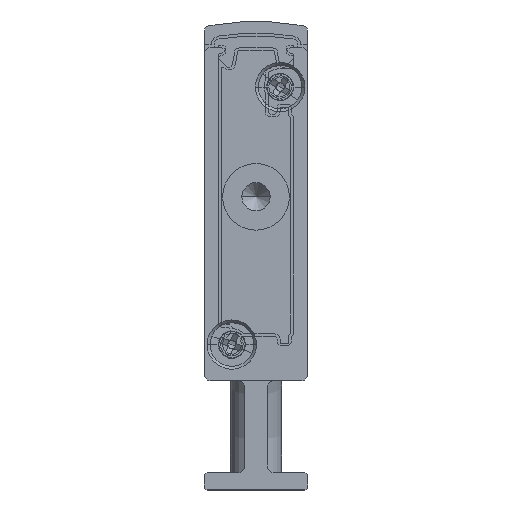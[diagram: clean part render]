
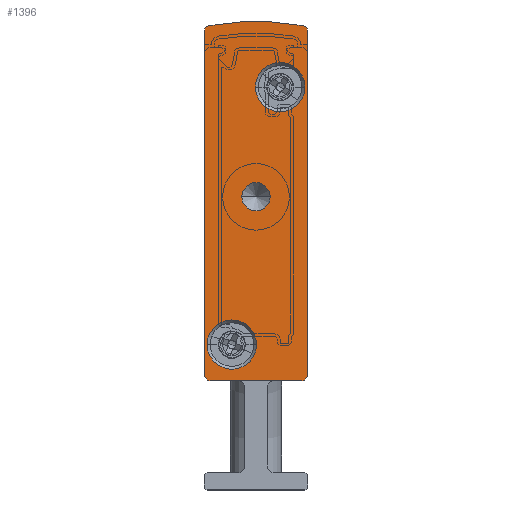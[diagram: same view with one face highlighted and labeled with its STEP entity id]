
A CAD part, front view. The second image highlights one B-rep face of the part: STEP entity #1396.
In plain terms, the highlighted planar face has unit normal (0, -1, 0).
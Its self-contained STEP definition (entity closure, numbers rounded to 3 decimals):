
#10 = AXIS2_PLACEMENT_3D ( 'NONE', #5677, #5494, #17726 ) ;
#490 = ORIENTED_EDGE ( 'NONE', *, *, #7455, .F. ) ;
#671 = VERTEX_POINT ( 'NONE', #676 ) ;
#676 = CARTESIAN_POINT ( 'NONE',  ( 8.75, -2.5, 35.05 ) ) ;
#755 = CARTESIAN_POINT ( 'NONE',  ( 4.5, -2.5, 17.092 ) ) ;
#1014 = AXIS2_PLACEMENT_3D ( 'NONE', #755, #17342, #11458 ) ;
#1019 = ORIENTED_EDGE ( 'NONE', *, *, #15814, .F. ) ;
#1182 = LINE ( 'NONE', #12134, #4486 ) ;
#1396 = ADVANCED_FACE ( 'NONE', ( #8070, #10951, #8309, #2373 ), #7086, .F. ) ;
#1519 = VERTEX_POINT ( 'NONE', #11944 ) ;
#1525 = DIRECTION ( 'NONE',  ( 0., 1., 0. ) ) ;
#1566 = CARTESIAN_POINT ( 'NONE',  ( 9., -2.5, 10. ) ) ;
#1591 = VERTEX_POINT ( 'NONE', #19479 ) ;
#1642 = DIRECTION ( 'NONE',  ( 0., -1., 0. ) ) ;
#1677 = DIRECTION ( 'NONE',  ( -1., 0., 0. ) ) ;
#1724 = AXIS2_PLACEMENT_3D ( 'NONE', #9395, #12487, #3407 ) ;
#1879 = LINE ( 'NONE', #1932, #6870 ) ;
#1932 = CARTESIAN_POINT ( 'NONE',  ( 9., -2.5, 39.902 ) ) ;
#2062 = CIRCLE ( 'NONE', #15212, 0.5 ) ;
#2064 = EDGE_CURVE ( 'NONE', #10153, #9838, #11144, .T. ) ;
#2109 = ORIENTED_EDGE ( 'NONE', *, *, #11687, .T. ) ;
#2330 = EDGE_CURVE ( 'NONE', #6908, #15617, #4674, .T. ) ;
#2362 = ORIENTED_EDGE ( 'NONE', *, *, #2733, .F. ) ;
#2373 = FACE_BOUND ( 'NONE', #14303, .T. ) ;
#2485 = CARTESIAN_POINT ( 'NONE',  ( 4.5, -2.5, 25.5 ) ) ;
#2594 = AXIS2_PLACEMENT_3D ( 'NONE', #7217, #10340, #18020 ) ;
#2733 = EDGE_CURVE ( 'NONE', #10946, #11207, #10025, .T. ) ;
#3052 = ORIENTED_EDGE ( 'NONE', *, *, #2064, .F. ) ;
#3259 = CARTESIAN_POINT ( 'NONE',  ( 8.5, -2.5, 10. ) ) ;
#3263 = CARTESIAN_POINT ( 'NONE',  ( 0., -2.5, 39.902 ) ) ;
#3309 = AXIS2_PLACEMENT_3D ( 'NONE', #2485, #5551, #11527 ) ;
#3407 = DIRECTION ( 'NONE',  ( -1., 0., 0. ) ) ;
#3705 = LINE ( 'NONE', #16080, #12048 ) ;
#3707 = CARTESIAN_POINT ( 'NONE',  ( 0.25, -2.5, 12.65 ) ) ;
#3936 = DIRECTION ( 'NONE',  ( 0., 1., 0. ) ) ;
#3970 = EDGE_CURVE ( 'NONE', #1591, #10946, #1879, .T. ) ;
#4044 = CIRCLE ( 'NONE', #8870, 2.15 ) ;
#4133 = CARTESIAN_POINT ( 'NONE',  ( 4.5, -2.5, 25.5 ) ) ;
#4177 = ORIENTED_EDGE ( 'NONE', *, *, #2330, .F. ) ;
#4357 = CARTESIAN_POINT ( 'NONE',  ( 0.5, -2.5, 10. ) ) ;
#4486 = VECTOR ( 'NONE', #15300, 1000. ) ;
#4563 = AXIS2_PLACEMENT_3D ( 'NONE', #6059, #16707, #15261 ) ;
#4674 = CIRCLE ( 'NONE', #1724, 0.5 ) ;
#5014 = VERTEX_POINT ( 'NONE', #6996 ) ;
#5246 = DIRECTION ( 'NONE',  ( -1., 0., 0. ) ) ;
#5440 = CARTESIAN_POINT ( 'NONE',  ( 0.408, -2.5, 40.393 ) ) ;
#5494 = DIRECTION ( 'NONE',  ( 0., 1., 0. ) ) ;
#5551 = DIRECTION ( 'NONE',  ( 0., 1., 0. ) ) ;
#5677 = CARTESIAN_POINT ( 'NONE',  ( 8.5, -2.5, 39.902 ) ) ;
#5771 = EDGE_CURVE ( 'NONE', #15490, #13602, #2062, .T. ) ;
#5817 = CIRCLE ( 'NONE', #10, 0.5 ) ;
#5831 = ORIENTED_EDGE ( 'NONE', *, *, #8377, .F. ) ;
#6059 = CARTESIAN_POINT ( 'NONE',  ( 2.4, -2.5, 12.65 ) ) ;
#6870 = VECTOR ( 'NONE', #8226, 1000. ) ;
#6908 = VERTEX_POINT ( 'NONE', #3263 ) ;
#6996 = CARTESIAN_POINT ( 'NONE',  ( 5.75, -2.5, 25.5 ) ) ;
#7086 = PLANE ( 'NONE',  #2594 ) ;
#7217 = CARTESIAN_POINT ( 'NONE',  ( 0.5, -2.5, 39.902 ) ) ;
#7455 = EDGE_CURVE ( 'NONE', #671, #1519, #4044, .T. ) ;
#7472 = VERTEX_POINT ( 'NONE', #11939 ) ;
#7535 = DIRECTION ( 'NONE',  ( 1., 0., 0. ) ) ;
#8025 = EDGE_LOOP ( 'NONE', ( #4177, #5831, #17909, #12215, #2362, #12602, #1019, #13871 ) ) ;
#8070 = FACE_BOUND ( 'NONE', #18493, .T. ) ;
#8226 = DIRECTION ( 'NONE',  ( 0., 0., -1. ) ) ;
#8309 = FACE_OUTER_BOUND ( 'NONE', #8025, .T. ) ;
#8377 = EDGE_CURVE ( 'NONE', #13602, #6908, #1182, .T. ) ;
#8404 = DIRECTION ( 'NONE',  ( 1., 0., 0. ) ) ;
#8580 = AXIS2_PLACEMENT_3D ( 'NONE', #8746, #14736, #17752 ) ;
#8648 = AXIS2_PLACEMENT_3D ( 'NONE', #4133, #3936, #11671 ) ;
#8746 = CARTESIAN_POINT ( 'NONE',  ( 2.4, -2.5, 12.65 ) ) ;
#8870 = AXIS2_PLACEMENT_3D ( 'NONE', #15955, #19003, #8404 ) ;
#9395 = CARTESIAN_POINT ( 'NONE',  ( 0.5, -2.5, 39.902 ) ) ;
#9730 = CARTESIAN_POINT ( 'NONE',  ( 0.5, -2.5, 9.5 ) ) ;
#9838 = VERTEX_POINT ( 'NONE', #3707 ) ;
#9898 = ORIENTED_EDGE ( 'NONE', *, *, #10966, .F. ) ;
#10025 = CIRCLE ( 'NONE', #18911, 0.5 ) ;
#10153 = VERTEX_POINT ( 'NONE', #19512 ) ;
#10340 = DIRECTION ( 'NONE',  ( 0., 1., 0. ) ) ;
#10946 = VERTEX_POINT ( 'NONE', #1566 ) ;
#10951 = FACE_BOUND ( 'NONE', #15190, .T. ) ;
#10966 = EDGE_CURVE ( 'NONE', #1519, #671, #16880, .T. ) ;
#11144 = CIRCLE ( 'NONE', #8580, 2.15 ) ;
#11207 = VERTEX_POINT ( 'NONE', #15701 ) ;
#11458 = DIRECTION ( 'NONE',  ( -1., 0., 0. ) ) ;
#11527 = DIRECTION ( 'NONE',  ( -1., 0., 0. ) ) ;
#11671 = DIRECTION ( 'NONE',  ( -1., 0., 0. ) ) ;
#11687 = EDGE_CURVE ( 'NONE', #15838, #5014, #15738, .T. ) ;
#11939 = CARTESIAN_POINT ( 'NONE',  ( 8.592, -2.5, 40.393 ) ) ;
#11944 = CARTESIAN_POINT ( 'NONE',  ( 4.45, -2.5, 35.05 ) ) ;
#12048 = VECTOR ( 'NONE', #5246, 1000. ) ;
#12066 = CIRCLE ( 'NONE', #1014, 23.658 ) ;
#12134 = CARTESIAN_POINT ( 'NONE',  ( 0., -2.5, 39.902 ) ) ;
#12215 = ORIENTED_EDGE ( 'NONE', *, *, #13276, .F. ) ;
#12451 = ORIENTED_EDGE ( 'NONE', *, *, #15257, .F. ) ;
#12487 = DIRECTION ( 'NONE',  ( 0., 1., 0. ) ) ;
#12592 = CARTESIAN_POINT ( 'NONE',  ( 0., -2.5, 10. ) ) ;
#12602 = ORIENTED_EDGE ( 'NONE', *, *, #3970, .F. ) ;
#13276 = EDGE_CURVE ( 'NONE', #11207, #15490, #3705, .T. ) ;
#13602 = VERTEX_POINT ( 'NONE', #12592 ) ;
#13729 = CARTESIAN_POINT ( 'NONE',  ( 6.6, -2.5, 35.05 ) ) ;
#13871 = ORIENTED_EDGE ( 'NONE', *, *, #15673, .F. ) ;
#14303 = EDGE_LOOP ( 'NONE', ( #2109, #16024 ) ) ;
#14736 = DIRECTION ( 'NONE',  ( 0., -1., 0. ) ) ;
#15190 = EDGE_LOOP ( 'NONE', ( #3052, #12451 ) ) ;
#15212 = AXIS2_PLACEMENT_3D ( 'NONE', #4357, #19419, #16451 ) ;
#15242 = EDGE_CURVE ( 'NONE', #5014, #15838, #17876, .T. ) ;
#15257 = EDGE_CURVE ( 'NONE', #9838, #10153, #17197, .T. ) ;
#15261 = DIRECTION ( 'NONE',  ( 1., 0., 0. ) ) ;
#15300 = DIRECTION ( 'NONE',  ( 0., 0., 1. ) ) ;
#15490 = VERTEX_POINT ( 'NONE', #9730 ) ;
#15617 = VERTEX_POINT ( 'NONE', #5440 ) ;
#15673 = EDGE_CURVE ( 'NONE', #15617, #7472, #12066, .T. ) ;
#15701 = CARTESIAN_POINT ( 'NONE',  ( 8.5, -2.5, 9.5 ) ) ;
#15738 = CIRCLE ( 'NONE', #3309, 1.25 ) ;
#15814 = EDGE_CURVE ( 'NONE', #7472, #1591, #5817, .T. ) ;
#15838 = VERTEX_POINT ( 'NONE', #17600 ) ;
#15955 = CARTESIAN_POINT ( 'NONE',  ( 6.6, -2.5, 35.05 ) ) ;
#16024 = ORIENTED_EDGE ( 'NONE', *, *, #15242, .T. ) ;
#16080 = CARTESIAN_POINT ( 'NONE',  ( 0.5, -2.5, 9.5 ) ) ;
#16451 = DIRECTION ( 'NONE',  ( -1., 0., 0. ) ) ;
#16707 = DIRECTION ( 'NONE',  ( 0., -1., 0. ) ) ;
#16880 = CIRCLE ( 'NONE', #18993, 2.15 ) ;
#17197 = CIRCLE ( 'NONE', #4563, 2.15 ) ;
#17342 = DIRECTION ( 'NONE',  ( 0., 1., 0. ) ) ;
#17600 = CARTESIAN_POINT ( 'NONE',  ( 3.25, -2.5, 25.5 ) ) ;
#17726 = DIRECTION ( 'NONE',  ( -1., 0., 0. ) ) ;
#17752 = DIRECTION ( 'NONE',  ( 1., 0., 0. ) ) ;
#17876 = CIRCLE ( 'NONE', #8648, 1.25 ) ;
#17909 = ORIENTED_EDGE ( 'NONE', *, *, #5771, .F. ) ;
#18020 = DIRECTION ( 'NONE',  ( -1., 0., 0. ) ) ;
#18493 = EDGE_LOOP ( 'NONE', ( #490, #9898 ) ) ;
#18911 = AXIS2_PLACEMENT_3D ( 'NONE', #3259, #1525, #1677 ) ;
#18993 = AXIS2_PLACEMENT_3D ( 'NONE', #13729, #1642, #7535 ) ;
#19003 = DIRECTION ( 'NONE',  ( 0., -1., 0. ) ) ;
#19419 = DIRECTION ( 'NONE',  ( 0., 1., 0. ) ) ;
#19479 = CARTESIAN_POINT ( 'NONE',  ( 9., -2.5, 39.902 ) ) ;
#19512 = CARTESIAN_POINT ( 'NONE',  ( 4.55, -2.5, 12.65 ) ) ;
